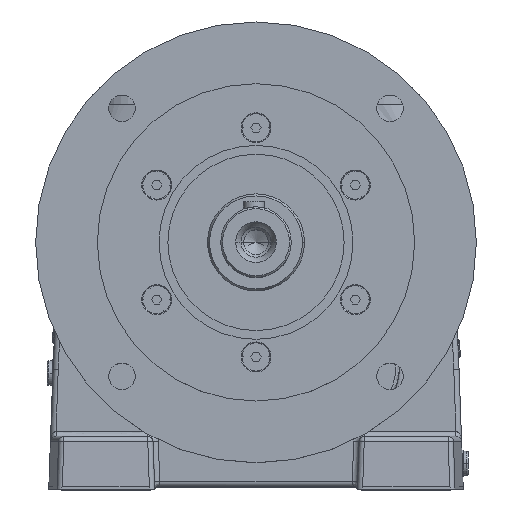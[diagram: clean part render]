
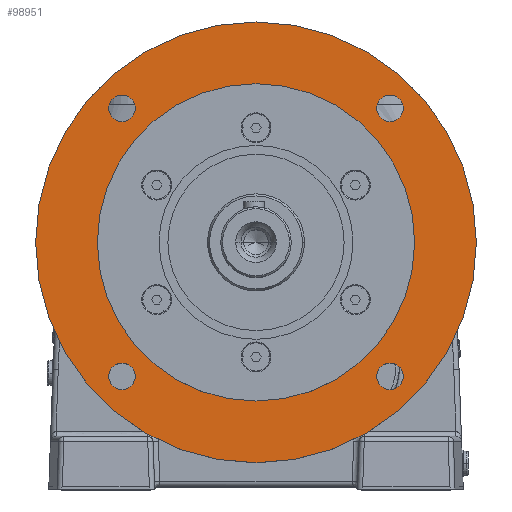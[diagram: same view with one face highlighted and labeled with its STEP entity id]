
A CAD part, top view. The second image highlights one B-rep face of the part: STEP entity #98951.
In plain terms, the highlighted planar face has unit normal (0, 0, 1).
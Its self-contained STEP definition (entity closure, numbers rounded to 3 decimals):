
#22543 = CARTESIAN_POINT ( 'NONE',  ( -76.014, -76.014, -5. ) ) ;
#22635 = CARTESIAN_POINT ( 'NONE',  ( 68.514, -76.014, -5. ) ) ;
#22680 = CARTESIAN_POINT ( 'NONE',  ( -68.514, -76.014, -5. ) ) ;
#22683 = DIRECTION ( 'NONE',  ( 1., 0., 0. ) ) ;
#22685 = DIRECTION ( 'NONE',  ( 0., 0., 1. ) ) ;
#22687 = AXIS2_PLACEMENT_3D ( 'NONE', #22543, #22685, #22683 ) ;
#22688 = CIRCLE ( 'NONE', #22687, 7.5 ) ;
#22753 = CARTESIAN_POINT ( 'NONE',  ( -68.514, 76.014, -5. ) ) ;
#22755 = DIRECTION ( 'NONE',  ( 1., 0., 0. ) ) ;
#22757 = DIRECTION ( 'NONE',  ( 0., 0., 1. ) ) ;
#22758 = CARTESIAN_POINT ( 'NONE',  ( -76.014, 76.014, -5. ) ) ;
#22760 = AXIS2_PLACEMENT_3D ( 'NONE', #22758, #22757, #22755 ) ;
#22762 = CIRCLE ( 'NONE', #22760, 7.5 ) ;
#22768 = CARTESIAN_POINT ( 'NONE',  ( -83.514, 76.014, -5. ) ) ;
#22832 = CARTESIAN_POINT ( 'NONE',  ( 83.514, 76.014, -5. ) ) ;
#22834 = DIRECTION ( 'NONE',  ( 1., 0., 0. ) ) ;
#22836 = DIRECTION ( 'NONE',  ( 0., 0., 1. ) ) ;
#22838 = CARTESIAN_POINT ( 'NONE',  ( 76.014, 76.014, -5. ) ) ;
#22839 = AXIS2_PLACEMENT_3D ( 'NONE', #22838, #22836, #22834 ) ;
#22841 = CIRCLE ( 'NONE', #22839, 7.5 ) ;
#22846 = CARTESIAN_POINT ( 'NONE',  ( 68.514, 76.014, -5. ) ) ;
#22917 = CARTESIAN_POINT ( 'NONE',  ( 125., 0., -5. ) ) ;
#22919 = DIRECTION ( 'NONE',  ( 1., 0., 0. ) ) ;
#22921 = DIRECTION ( 'NONE',  ( 0., 0., 1. ) ) ;
#22922 = CARTESIAN_POINT ( 'NONE',  ( 0., 0., -5. ) ) ;
#22924 = AXIS2_PLACEMENT_3D ( 'NONE', #22922, #22921, #22919 ) ;
#22925 = CIRCLE ( 'NONE', #22924, 125. ) ;
#22949 = CARTESIAN_POINT ( 'NONE',  ( 83.514, -76.014, -5. ) ) ;
#22951 = DIRECTION ( 'NONE',  ( 1., 0., 0. ) ) ;
#22953 = DIRECTION ( 'NONE',  ( 0., 0., 1. ) ) ;
#22955 = CARTESIAN_POINT ( 'NONE',  ( 76.014, -76.014, -5. ) ) ;
#22957 = AXIS2_PLACEMENT_3D ( 'NONE', #22955, #22953, #22951 ) ;
#22958 = CIRCLE ( 'NONE', #22957, 7.5 ) ;
#22986 = CARTESIAN_POINT ( 'NONE',  ( -90., 0., -5. ) ) ;
#22988 = CARTESIAN_POINT ( 'NONE',  ( 90., 0., -5. ) ) ;
#22991 = DIRECTION ( 'NONE',  ( 1., 0., 0. ) ) ;
#22993 = DIRECTION ( 'NONE',  ( 0., 0., 1. ) ) ;
#22995 = CARTESIAN_POINT ( 'NONE',  ( 0., 0., -5. ) ) ;
#22996 = AXIS2_PLACEMENT_3D ( 'NONE', #22995, #22993, #22991 ) ;
#23006 = CIRCLE ( 'NONE', #22996, 90. ) ;
#23021 = CARTESIAN_POINT ( 'NONE',  ( -83.514, -76.014, -5. ) ) ;
#23034 = CARTESIAN_POINT ( 'NONE',  ( -125., 0., -5. ) ) ;
#23226 = DIRECTION ( 'NONE',  ( 1., 0., 0. ) ) ;
#23228 = DIRECTION ( 'NONE',  ( 0., 0., 1. ) ) ;
#23230 = CARTESIAN_POINT ( 'NONE',  ( -76.014, 76.014, -5. ) ) ;
#23232 = AXIS2_PLACEMENT_3D ( 'NONE', #23230, #23228, #23226 ) ;
#23233 = CIRCLE ( 'NONE', #23232, 7.5 ) ;
#23460 = FACE_BOUND ( 'NONE', #98945, .T. ) ;
#23461 = FACE_BOUND ( 'NONE', #98941, .T. ) ;
#23463 = FACE_OUTER_BOUND ( 'NONE', #98937, .T. ) ;
#23465 = FACE_BOUND ( 'NONE', #98884, .T. ) ;
#23467 = FACE_BOUND ( 'NONE', #98956, .T. ) ;
#23469 = FACE_BOUND ( 'NONE', #98952, .T. ) ;
#23484 = DIRECTION ( 'NONE',  ( 1., 0., 0. ) ) ;
#23486 = DIRECTION ( 'NONE',  ( 0., 0., 1. ) ) ;
#23488 = CARTESIAN_POINT ( 'NONE',  ( 76.014, -76.014, -5. ) ) ;
#23489 = AXIS2_PLACEMENT_3D ( 'NONE', #23488, #23486, #23484 ) ;
#23491 = CIRCLE ( 'NONE', #23489, 7.5 ) ;
#23497 = DIRECTION ( 'NONE',  ( 1., 0., 0. ) ) ;
#23498 = DIRECTION ( 'NONE',  ( 0., 0., 1. ) ) ;
#23499 = CARTESIAN_POINT ( 'NONE',  ( 0., 0., -5. ) ) ;
#23501 = AXIS2_PLACEMENT_3D ( 'NONE', #23499, #23498, #23497 ) ;
#23503 = CIRCLE ( 'NONE', #23501, 90. ) ;
#23509 = DIRECTION ( 'NONE',  ( 1., 0., 0. ) ) ;
#23511 = DIRECTION ( 'NONE',  ( 0., 0., 1. ) ) ;
#23513 = CARTESIAN_POINT ( 'NONE',  ( 0., 0., -5. ) ) ;
#23514 = AXIS2_PLACEMENT_3D ( 'NONE', #23513, #23511, #23509 ) ;
#23516 = CIRCLE ( 'NONE', #23514, 125. ) ;
#23520 = DIRECTION ( 'NONE',  ( 1., 0., 0. ) ) ;
#23522 = DIRECTION ( 'NONE',  ( 0., 0., 1. ) ) ;
#23524 = CARTESIAN_POINT ( 'NONE',  ( -76.014, -76.014, -5. ) ) ;
#23526 = AXIS2_PLACEMENT_3D ( 'NONE', #23524, #23522, #23520 ) ;
#23527 = CIRCLE ( 'NONE', #23526, 7.5 ) ;
#23549 = DIRECTION ( 'NONE',  ( 1., 0., 0. ) ) ;
#23551 = DIRECTION ( 'NONE',  ( 0., 0., 1. ) ) ;
#23553 = CARTESIAN_POINT ( 'NONE',  ( 76.014, 76.014, -5. ) ) ;
#23555 = AXIS2_PLACEMENT_3D ( 'NONE', #23553, #23551, #23549 ) ;
#23557 = CIRCLE ( 'NONE', #23555, 7.5 ) ;
#23564 = DIRECTION ( 'NONE',  ( -1., 0., 0. ) ) ;
#23566 = DIRECTION ( 'NONE',  ( 0., 0., -1. ) ) ;
#23568 = CARTESIAN_POINT ( 'NONE',  ( 0., 90., -5. ) ) ;
#23570 = AXIS2_PLACEMENT_3D ( 'NONE', #23568, #23566, #23564 ) ;
#23574 = PLANE ( 'NONE',  #23570 ) ;
#98755 = EDGE_CURVE ( 'NONE', #98838, #98756, #22688, .T. ) ;
#98756 = VERTEX_POINT ( 'NONE', #22680 ) ;
#98767 = VERTEX_POINT ( 'NONE', #22635 ) ;
#98773 = VERTEX_POINT ( 'NONE', #22768 ) ;
#98775 = EDGE_CURVE ( 'NONE', #98773, #98776, #22762, .T. ) ;
#98776 = VERTEX_POINT ( 'NONE', #22753 ) ;
#98789 = VERTEX_POINT ( 'NONE', #22846 ) ;
#98791 = EDGE_CURVE ( 'NONE', #98789, #98792, #22841, .T. ) ;
#98792 = VERTEX_POINT ( 'NONE', #22832 ) ;
#98803 = EDGE_CURVE ( 'NONE', #98804, #98833, #22925, .T. ) ;
#98804 = VERTEX_POINT ( 'NONE', #22917 ) ;
#98810 = EDGE_CURVE ( 'NONE', #98811, #98812, #23006, .T. ) ;
#98811 = VERTEX_POINT ( 'NONE', #22988 ) ;
#98812 = VERTEX_POINT ( 'NONE', #22986 ) ;
#98820 = EDGE_CURVE ( 'NONE', #98767, #98821, #22958, .T. ) ;
#98821 = VERTEX_POINT ( 'NONE', #22949 ) ;
#98833 = VERTEX_POINT ( 'NONE', #23034 ) ;
#98838 = VERTEX_POINT ( 'NONE', #23021 ) ;
#98881 = ORIENTED_EDGE ( 'NONE', *, *, #98882, .F. ) ;
#98882 = EDGE_CURVE ( 'NONE', #98776, #98773, #23233, .T. ) ;
#98883 = ORIENTED_EDGE ( 'NONE', *, *, #98775, .F. ) ;
#98884 = EDGE_LOOP ( 'NONE', ( #98934, #98936 ) ) ;
#98920 = ORIENTED_EDGE ( 'NONE', *, *, #98820, .F. ) ;
#98934 = ORIENTED_EDGE ( 'NONE', *, *, #98935, .F. ) ;
#98935 = EDGE_CURVE ( 'NONE', #98756, #98838, #23527, .T. ) ;
#98936 = ORIENTED_EDGE ( 'NONE', *, *, #98755, .F. ) ;
#98937 = EDGE_LOOP ( 'NONE', ( #98938, #98939 ) ) ;
#98938 = ORIENTED_EDGE ( 'NONE', *, *, #98803, .T. ) ;
#98939 = ORIENTED_EDGE ( 'NONE', *, *, #98940, .T. ) ;
#98940 = EDGE_CURVE ( 'NONE', #98833, #98804, #23516, .T. ) ;
#98941 = EDGE_LOOP ( 'NONE', ( #98942, #98943 ) ) ;
#98942 = ORIENTED_EDGE ( 'NONE', *, *, #98810, .F. ) ;
#98943 = ORIENTED_EDGE ( 'NONE', *, *, #98944, .F. ) ;
#98944 = EDGE_CURVE ( 'NONE', #98812, #98811, #23503, .T. ) ;
#98945 = EDGE_LOOP ( 'NONE', ( #98946, #98920 ) ) ;
#98946 = ORIENTED_EDGE ( 'NONE', *, *, #98947, .F. ) ;
#98947 = EDGE_CURVE ( 'NONE', #98821, #98767, #23491, .T. ) ;
#98951 = ADVANCED_FACE ( 'NONE', ( #23469, #23467, #23465, #23463, #23461, #23460 ), #23574, .F. ) ;
#98952 = EDGE_LOOP ( 'NONE', ( #98953, #98955 ) ) ;
#98953 = ORIENTED_EDGE ( 'NONE', *, *, #98954, .F. ) ;
#98954 = EDGE_CURVE ( 'NONE', #98792, #98789, #23557, .T. ) ;
#98955 = ORIENTED_EDGE ( 'NONE', *, *, #98791, .F. ) ;
#98956 = EDGE_LOOP ( 'NONE', ( #98881, #98883 ) ) ;
